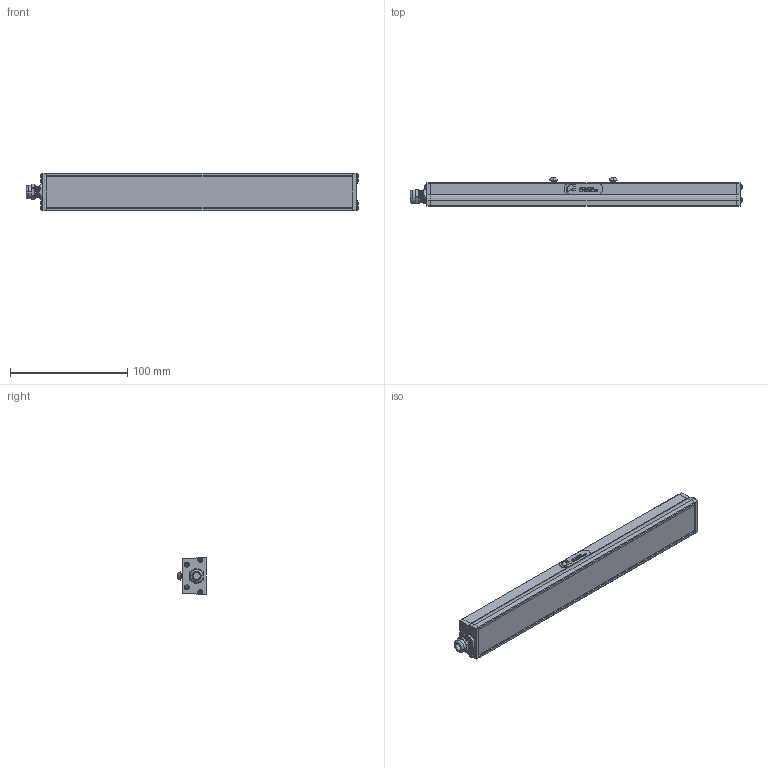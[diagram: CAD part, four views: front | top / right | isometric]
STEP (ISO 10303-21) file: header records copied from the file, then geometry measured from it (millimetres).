
FILE_DESCRIPTION (( 'STEP AP214' ), '1' );
FILE_NAME ('AL116 _NONSEALED__ALL11610.stp', '2021-04-29T14:22:10', ( '' ), ( '' ), 'SwSTEP 2.0', 'SolidWorks 2018', '' );
FILE_SCHEMA (( 'AUTOMOTIVE_DESIGN' ));
Length unit declared in the file: inch
Products named in the file (15): 090888-XX_090888-10; HN-M4_90592A016; 10mm Advanced illumination; 090878-XX_090878-10; 093474_093474; 10mm Swish_Default<As Machined>; 10mm Ai; 10mm Label (116 126)_Default<As Machined>; 091052 (116 126); 093469_093469; 090869; 091064_Model_Dome Fittings_Thread Type and Size(Dome)_M10 x 1.5_Hazardous Location-Explosive Proof(ATEX and EExe Versions)_No_; 090870; BH-M4x6; AL116 _NONSEALED__ALL11610
Assembly tree (24 placements, depth 3):
  AL116 _NONSEALED__ALL11610
    090888-XX_090888-10
    093469_093469  x2
    090869
    090870
    090878-XX_090878-10
    093474_093474  x8
    091064_Model_Dome Fittings_Thread Type and Size(Dome)_M10 x 1.5_Hazardous Location-Explosive Proof(ATEX and EExe Versions)_No_
    091052 (116 126)
      10mm Label (116 126)_Default<As Machined>
      10mm Ai
      10mm Swish_Default<As Machined>
      10mm Advanced illumination
    HN-M4_90592A016  x2
    BH-M4x6  x2
Bounding box: 283.13 x 24.1 x 32.21 mm (x, y, z)
Volume: 54181.3 mm3; surface area: 78455.3 mm2
Topology: 48 solids, 48 shells, 1911 faces, 4942 edges, 3078 vertices
Faces by surface type: cylinder 954, plane 413, cone 362, bspline 122, torus 60
Entity records: 31843 total; most frequent: CARTESIAN_POINT 11151, ORIENTED_EDGE 4280, DIRECTION 3753, EDGE_CURVE 2140, VERTEX_POINT 1366, AXIS2_PLACEMENT_3D 1335, LINE 1083, VECTOR 1083
